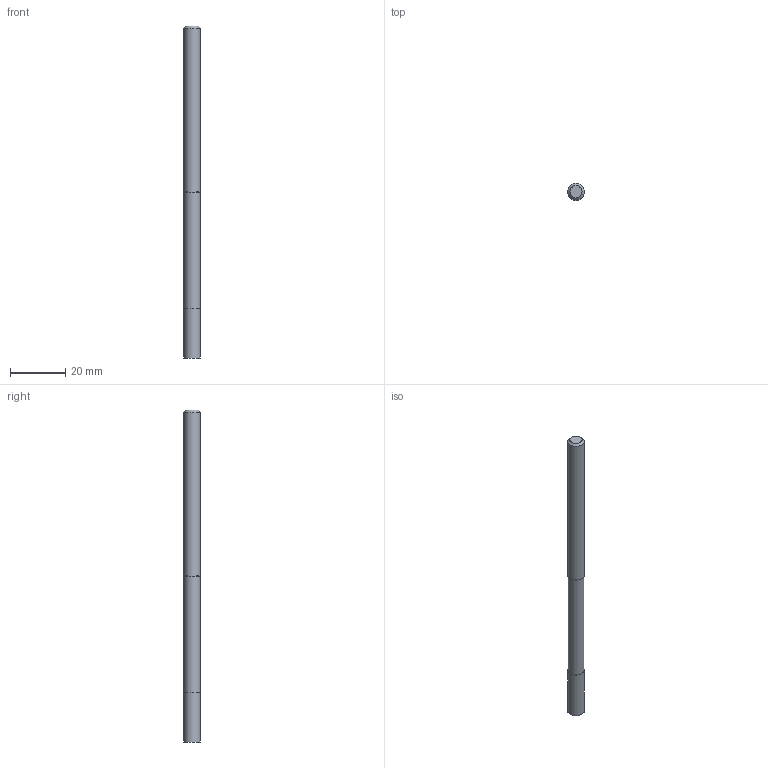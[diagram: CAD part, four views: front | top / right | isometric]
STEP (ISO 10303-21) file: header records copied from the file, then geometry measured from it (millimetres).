
FILE_DESCRIPTION((''),'2;1');
FILE_NAME('C:\Users\nsx150\Desktop\RSE230_20210427\01-00644-06060 RSE230 D6X18X60.step','2021-05-07T14:54:33',(''),(''),'STEP Write','Mastercam 2021 ... CNC Software, Inc.','');
FILE_SCHEMA(('AUTOMOTIVE_DESIGN'));
Length unit declared in the file: millimetre
Products named in the file (1): None
Bounding box: 6 x 6 x 120 mm (x, y, z)
Volume: 3309.6 mm3; surface area: 2339 mm2
Topology: 2 solids, 2 shells, 9 faces, 11 edges, 7 vertices
Faces by surface type: plane 5, cylinder 3, cone 1
Full cylindrical faces by diameter (mm): 5.8 x1, 6 x2
Entity records: 211 total; most frequent: DIRECTION 36, CARTESIAN_POINT 25, AXIS2_PLACEMENT_3D 18, ORIENTED_EDGE 14, EDGE_LOOP 14, STYLED_ITEM 12, ADVANCED_FACE 9, FACE_BOUND 8
